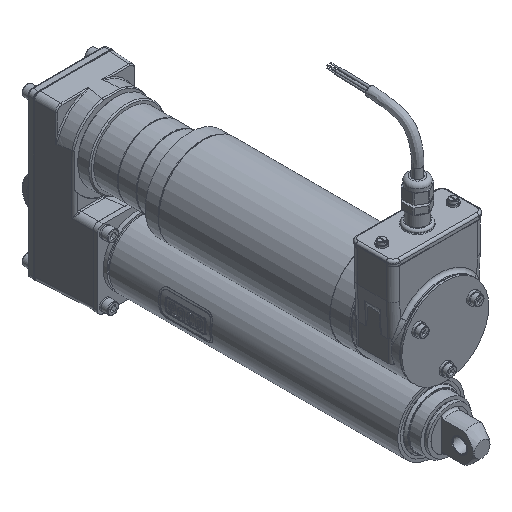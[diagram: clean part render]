
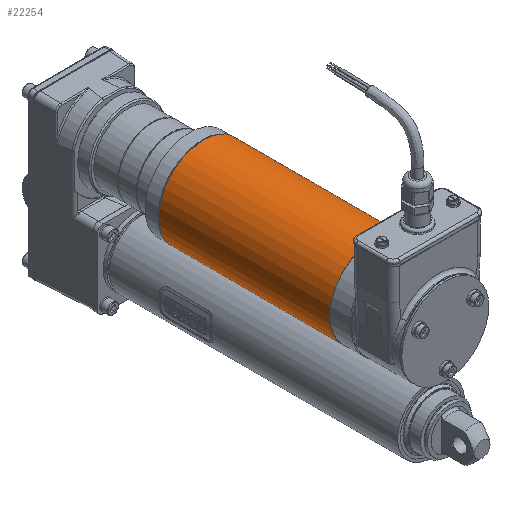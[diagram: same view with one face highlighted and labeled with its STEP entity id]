
A CAD part, isometric view. The second image highlights one B-rep face of the part: STEP entity #22254.
In plain terms, the highlighted cylindrical face has radius 40 mm (diameter 80 mm), a full revolution.
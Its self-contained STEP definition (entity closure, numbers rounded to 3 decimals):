
#758=CYLINDRICAL_SURFACE('',#23683,40.);
#5540=ORIENTED_EDGE('',*,*,#8638,.F.);
#5541=ORIENTED_EDGE('',*,*,#8637,.T.);
#8637=EDGE_CURVE('',#10416,#10416,#11371,.T.);
#8638=EDGE_CURVE('',#10417,#10417,#11372,.T.);
#10416=VERTEX_POINT('',#32882);
#10417=VERTEX_POINT('',#32885);
#11371=CIRCLE('',#23682,40.);
#11372=CIRCLE('',#23684,40.);
#12415=EDGE_LOOP('',(#5540));
#12416=EDGE_LOOP('',(#5541));
#13720=FACE_BOUND('',#12415,.T.);
#13721=FACE_BOUND('',#12416,.T.);
#22254=ADVANCED_FACE('',(#13720,#13721),#758,.T.);
#23682=AXIS2_PLACEMENT_3D('',#32881,#26941,#26942);
#23683=AXIS2_PLACEMENT_3D('',#32883,#26943,#26944);
#23684=AXIS2_PLACEMENT_3D('',#32884,#26945,#26946);
#26941=DIRECTION('',(0.,1.,0.));
#26942=DIRECTION('',(0.,0.,1.));
#26943=DIRECTION('',(0.,1.,0.));
#26944=DIRECTION('',(0.,0.,1.));
#26945=DIRECTION('',(0.,1.,0.));
#26946=DIRECTION('',(0.,0.,1.));
#32881=CARTESIAN_POINT('',(0.,-228.,0.));
#32882=CARTESIAN_POINT('',(0.,-228.,40.));
#32883=CARTESIAN_POINT('',(0.,0.,
0.));
#32884=CARTESIAN_POINT('',(0.,-74.,0.));
#32885=CARTESIAN_POINT('',(0.,-74.,40.));
